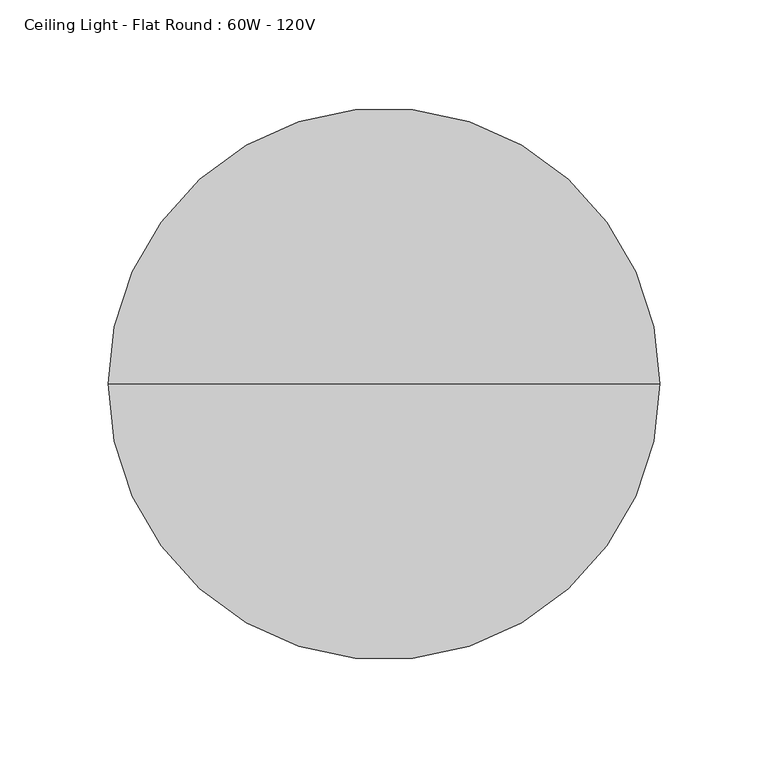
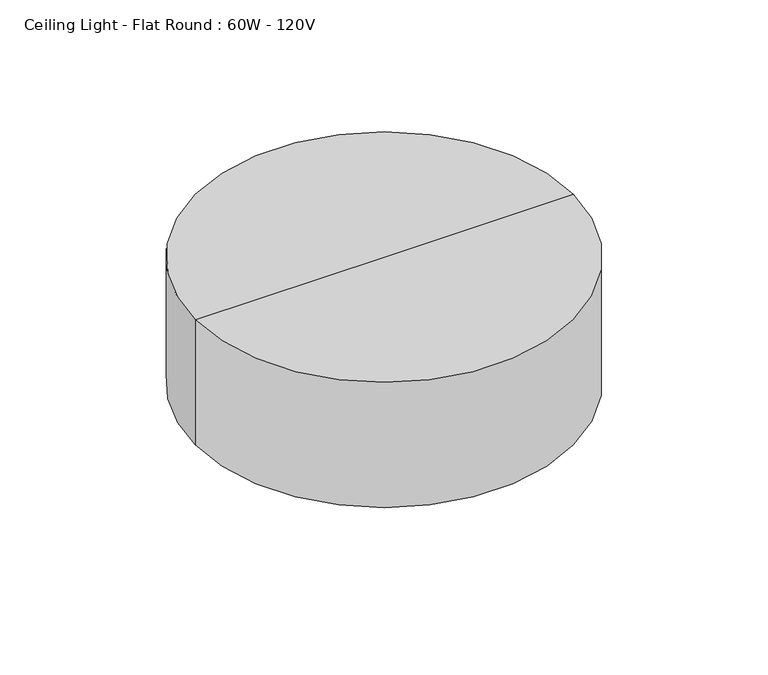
"""IFC4 building model written with IfcOpenShell, lengths in millimetres: light fixture geometry, Ceiling Light - Flat Round : 60W - 120V."""

from ifc_helpers import new_model, si_unit, point, frame, origin, origin_with_axes, origin_2d, place, context, project, spatial, polyline, circle_curve, trimmed, segment, composite_curve, outline, extrude, source, transform, mapped, element, save
from ifc_brep_helpers import plane_surface, cylinder_surface, revolved_surface, advanced_brep


def ceiling_light_flat_round_60w_120v_a3c1fe64(model_context):
    return source(origin(), model_context, "Body", "SolidModel", [
        extrude(outline(composite_curve([segment(trimmed(circle_curve(origin_2d(), 82.55), [point((-82.55, 0.0))], [point((82.55, 0.0))], False, "CARTESIAN"), True, "CONTINUOUS"), segment(trimmed(circle_curve(origin_2d(), 82.55), [point((82.55, 0.0))], [point((-82.55, 0.0))], False, "CARTESIAN"), True, "CONTINUOUS")], self_intersect=False), holes=[composite_curve([segment(trimmed(circle_curve(origin_2d(), 76.2), [point((-76.2, 0.0))], [point((76.2, 0.0))], True, "CARTESIAN"), True, "CONTINUOUS"), segment(trimmed(circle_curve(origin_2d(), 76.2), [point((76.2, 0.0))], [point((-76.2, 0.0))], True, "CARTESIAN"), True, "CONTINUOUS")], self_intersect=False)]), origin_with_axes(), (0.0, 0.0, 1.0), 25.4),
        advanced_brep(
        [(127.0, 0.0, 25.4), (-127.0, 0.0, 25.4), (-127.0, 0.0, 114.3), (127.0, 0.0, 114.3), (76.2, 0.0, 25.4), (-76.2, 0.0, 25.4), (76.2, 0.0, 0.0), (-76.2, 0.0, 0.0), (73.025, 0.0, 0.0), (-73.025, 0.0, 0.0), (73.025, 0.0, 28.575), (-73.025, 0.0, 28.575), (123.825, 0.0, 28.575), (-123.825, 0.0, 28.575), (123.825, 0.0, 111.125), (-123.825, 0.0, 111.125), (0.0, 0.0, 111.125), (0.0, 0.0, 114.3)],
        [
            (0, 1, circle_curve(frame((0.0, 0.0, 25.4), z_axis=(0.0, 0.0, 1.0), x_axis=(-1.0, 0.0, 0.0)), 127.0)),
            (1, 2),
            (2, 3, circle_curve(frame((0.0, 0.0, 114.3), z_axis=(0.0, 0.0, -1.0), x_axis=(-1.0, 0.0, 0.0)), 127.0)),
            (3, 0),
            (1, 0, circle_curve(frame((0.0, 0.0, 25.4), z_axis=(0.0, 0.0, 1.0), x_axis=(-1.0, 0.0, 0.0)), 127.0)),
            (3, 2, circle_curve(frame((0.0, 0.0, 114.3), z_axis=(0.0, 0.0, -1.0), x_axis=(-1.0, 0.0, 0.0)), 127.0)),
            (4, 5, circle_curve(frame((0.0, 0.0, 25.4), z_axis=(0.0, 0.0, 1.0), x_axis=(-1.0, 0.0, 0.0)), 76.2)),
            (5, 1),
            (0, 4),
            (5, 4, circle_curve(frame((0.0, 0.0, 25.4), z_axis=(0.0, 0.0, 1.0), x_axis=(-1.0, 0.0, 0.0)), 76.2)),
            (6, 7, circle_curve(frame((0.0, 0.0, 0.0), z_axis=(0.0, 0.0, 1.0), x_axis=(-1.0, 0.0, 0.0)), 76.2)),
            (7, 5),
            (4, 6),
            (7, 6, circle_curve(frame((0.0, 0.0, 0.0), z_axis=(0.0, 0.0, 1.0), x_axis=(-1.0, 0.0, 0.0)), 76.2)),
            (8, 9, circle_curve(frame((0.0, 0.0, 0.0), z_axis=(0.0, 0.0, 1.0), x_axis=(-1.0, 0.0, 0.0)), 73.025)),
            (9, 7),
            (6, 8),
            (9, 8, circle_curve(frame((0.0, 0.0, 0.0), z_axis=(0.0, 0.0, 1.0), x_axis=(-1.0, 0.0, 0.0)), 73.025)),
            (10, 11, circle_curve(frame((0.0, 0.0, 28.575), z_axis=(0.0, 0.0, 1.0), x_axis=(-1.0, 0.0, 0.0)), 73.025)),
            (11, 9),
            (8, 10),
            (11, 10, circle_curve(frame((0.0, 0.0, 28.575), z_axis=(0.0, 0.0, 1.0), x_axis=(-1.0, 0.0, 0.0)), 73.025)),
            (12, 13, circle_curve(frame((0.0, 0.0, 28.575), z_axis=(0.0, 0.0, 1.0), x_axis=(-1.0, 0.0, 0.0)), 123.825)),
            (13, 11),
            (10, 12),
            (13, 12, circle_curve(frame((0.0, 0.0, 28.575), z_axis=(0.0, 0.0, 1.0), x_axis=(-1.0, 0.0, 0.0)), 123.825)),
            (14, 15, circle_curve(frame((0.0, 0.0, 111.125), z_axis=(0.0, 0.0, 1.0), x_axis=(-1.0, 0.0, 0.0)), 123.825)),
            (15, 13),
            (12, 14),
            (15, 14, circle_curve(frame((0.0, 0.0, 111.125), z_axis=(0.0, 0.0, 1.0), x_axis=(-1.0, 0.0, 0.0)), 123.825)),
            (16, 15),
            (14, 16),
            (2, 17),
            (17, 3),
        ],
        [
            cylinder_surface(frame((0.0, 0.0, 111.125), z_axis=(0.0, 0.0, -1.0), x_axis=(-1.0, 0.0, 0.0)), 127.0),
            plane_surface(frame((0.0, 0.0, 25.4), z_axis=(0.0, 0.0, -1.0), x_axis=(-1.0, 0.0, 0.0))),
            cylinder_surface(frame((0.0, 0.0, 111.125), z_axis=(0.0, 0.0, -1.0), x_axis=(-1.0, 0.0, 0.0)), 76.2),
            plane_surface(frame((0.0, 0.0, 0.0), z_axis=(0.0, 0.0, -1.0), x_axis=(-1.0, 0.0, 0.0))),
            revolved_surface(polyline([(-73.025, 0.0, 0.0), (-73.025, 0.0, 28.575000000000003)]), (0.0, 0.0, 111.125), (0.0, 0.0, -1.0)),
            plane_surface(frame((0.0, 0.0, 28.575), z_axis=(0.0, 0.0, 1.0), x_axis=(-1.0, 0.0, 0.0))),
            revolved_surface(polyline([(-123.825, 0.0, 28.575000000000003), (-123.825, 0.0, 111.125)]), (0.0, 0.0, 111.125), (0.0, 0.0, -1.0)),
            plane_surface(frame((0.0, 0.0, 111.125), z_axis=(0.0, 0.0, -1.0), x_axis=(-1.0, 0.0, 0.0))),
            plane_surface(frame((0.0, 0.0, 114.3), z_axis=(0.0, 0.0, 1.0), x_axis=(-1.0, 0.0, 0.0))),
        ],
        [
            (0, [[1, 2, 3, 4]]),
            (0, [[5, -4, 6, -2]]),
            (1, [[7, 8, -1, 9]]),
            (1, [[10, -9, -5, -8]]),
            (2, [[11, 12, -7, 13]]),
            (2, [[14, -13, -10, -12]]),
            (3, [[15, 16, -11, 17]]),
            (3, [[18, -17, -14, -16]]),
            (4, [[19, 20, -15, 21]]),
            (4, [[22, -21, -18, -20]]),
            (5, [[23, 24, -19, 25]]),
            (5, [[26, -25, -22, -24]]),
            (6, [[27, 28, -23, 29]]),
            (6, [[30, -29, -26, -28]]),
            (7, [[31, -27, 32]]),
            (7, [[-32, -30, -31]]),
            (8, [[-3, 33, 34]]),
            (8, [[-6, -34, -33]]),
        ],
    ),
    ])


if __name__ == "__main__":
    model = new_model("IFC4")
    model_context = context("Model", 3, world=origin())
    ifc_project = project(units=[si_unit("LENGTHUNIT", "METRE", prefix="MILLI")], contexts=[model_context])
    site = spatial("IfcSite", under=ifc_project)
    building = spatial("IfcBuilding", under=site)
    placement = place(None, origin())
    ceiling_light_flat_round_60w_120v_shape = ceiling_light_flat_round_60w_120v_a3c1fe64(model_context)
    element("IfcLightFixture", 1, ObjectType="Ceiling Light - Flat Round : 60W - 120V", at=placement, inside=building, context=model_context, shape_type="MappedRepresentation", body=[
        mapped(ceiling_light_flat_round_60w_120v_shape, transform((0.0, 0.0, 0.0), x_axis=(1.0, 0.0, 0.0), y_axis=(0.0, 1.0, 0.0), z_axis=(0.0, 0.0, 1.0))),
    ])
    save(model, "model.ifc")
